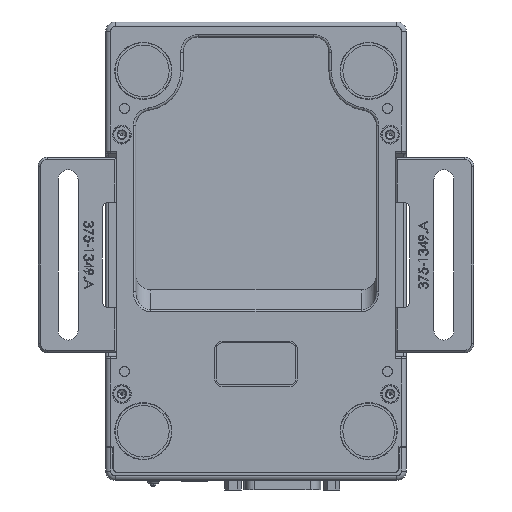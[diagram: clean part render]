
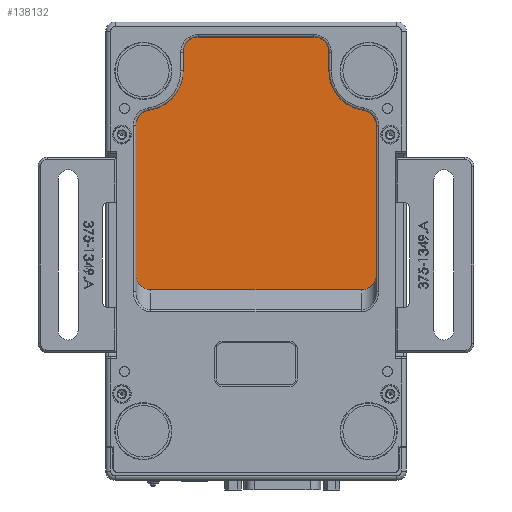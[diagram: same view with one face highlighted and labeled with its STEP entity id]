
A CAD part, front view. The second image highlights one B-rep face of the part: STEP entity #138132.
In plain terms, the highlighted planar face has unit normal (0, -1, 0).
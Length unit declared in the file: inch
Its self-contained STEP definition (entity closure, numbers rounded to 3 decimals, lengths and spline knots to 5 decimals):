
#653 = VERTEX_POINT ( 'NONE', #24613 ) ;
#1528 = DIRECTION ( 'NONE',  ( 0., 0., 1. ) ) ;
#2677 = CIRCLE ( 'NONE', #60358, 0.2 ) ;
#5729 = CIRCLE ( 'NONE', #52024, 0.2 ) ;
#9029 = VECTOR ( 'NONE', #118544, 39.37008 ) ;
#9958 = ORIENTED_EDGE ( 'NONE', *, *, #165660, .T. ) ;
#10889 = DIRECTION ( 'NONE',  ( 0., 0., 1. ) ) ;
#13133 = CIRCLE ( 'NONE', #154276, 0.2 ) ;
#13709 = FACE_OUTER_BOUND ( 'NONE', #97123, .T. ) ;
#14053 = VERTEX_POINT ( 'NONE', #90993 ) ;
#16276 = EDGE_CURVE ( 'NONE', #14053, #61495, #5729, .T. ) ;
#18129 = CARTESIAN_POINT ( 'NONE',  ( 1.6, -1.44, 0.62688 ) ) ;
#20950 = CIRCLE ( 'NONE', #27233, 0.2 ) ;
#21540 = VECTOR ( 'NONE', #72538, 39.37008 ) ;
#23420 = CARTESIAN_POINT ( 'NONE',  ( 0.77, -1.44, 1.8 ) ) ;
#23577 = LINE ( 'NONE', #109333, #166624 ) ;
#24613 = CARTESIAN_POINT ( 'NONE',  ( -1.4274, -1.44, 0.825 ) ) ;
#24765 = DIRECTION ( 'NONE',  ( 0., 1., 0. ) ) ;
#24994 = CIRCLE ( 'NONE', #84988, 0.53 ) ;
#26131 = AXIS2_PLACEMENT_3D ( 'NONE', #71861, #154798, #42800 ) ;
#27233 = AXIS2_PLACEMENT_3D ( 'NONE', #120951, #150518, #65741 ) ;
#30876 = ORIENTED_EDGE ( 'NONE', *, *, #45957, .T. ) ;
#31865 = ORIENTED_EDGE ( 'NONE', *, *, #80948, .T. ) ;
#32021 = CARTESIAN_POINT ( 'NONE',  ( 1.4274, -1.44, 0.825 ) ) ;
#38746 = AXIS2_PLACEMENT_3D ( 'NONE', #120395, #107041, #77974 ) ;
#39627 = DIRECTION ( 'NONE',  ( 0., 0., -1. ) ) ;
#39914 = DIRECTION ( 'NONE',  ( 0., 1., 0. ) ) ;
#42800 = DIRECTION ( 'NONE',  ( 0., 0., 1. ) ) ;
#42889 = CARTESIAN_POINT ( 'NONE',  ( 1.4, -1.44, 0.62688 ) ) ;
#43999 = CARTESIAN_POINT ( 'NONE',  ( 1.4, -1.44, -1.56544 ) ) ;
#44372 = ORIENTED_EDGE ( 'NONE', *, *, #163202, .T. ) ;
#44866 = CARTESIAN_POINT ( 'NONE',  ( -0.77, -1.44, 1.8 ) ) ;
#45957 = EDGE_CURVE ( 'NONE', #653, #56343, #13133, .T. ) ;
#47040 = EDGE_CURVE ( 'NONE', #59031, #68244, #2677, .T. ) ;
#48220 = EDGE_CURVE ( 'NONE', #142439, #155360, #132433, .T. ) ;
#52024 = AXIS2_PLACEMENT_3D ( 'NONE', #171306, #88272, #101566 ) ;
#52756 = EDGE_CURVE ( 'NONE', #56343, #14053, #113675, .T. ) ;
#56343 = VERTEX_POINT ( 'NONE', #108715 ) ;
#57211 = CARTESIAN_POINT ( 'NONE',  ( 0.97, -1.44, 1.6 ) ) ;
#58361 = DIRECTION ( 'NONE',  ( 0., -1., 0. ) ) ;
#59031 = VERTEX_POINT ( 'NONE', #43999 ) ;
#60358 = AXIS2_PLACEMENT_3D ( 'NONE', #84437, #58361, #1528 ) ;
#61495 = VERTEX_POINT ( 'NONE', #141686 ) ;
#64504 = AXIS2_PLACEMENT_3D ( 'NONE', #42889, #139731, #163350 ) ;
#65741 = DIRECTION ( 'NONE',  ( 0., 0., 1. ) ) ;
#67047 = EDGE_CURVE ( 'NONE', #155360, #136522, #164129, .T. ) ;
#68244 = VERTEX_POINT ( 'NONE', #101895 ) ;
#69104 = LINE ( 'NONE', #170076, #21540 ) ;
#71861 = CARTESIAN_POINT ( 'NONE',  ( -0.77, -1.44, 1.6 ) ) ;
#72538 = DIRECTION ( 'NONE',  ( 1., 0., 0. ) ) ;
#74265 = ORIENTED_EDGE ( 'NONE', *, *, #16276, .T. ) ;
#77974 = DIRECTION ( 'NONE',  ( 0., 0., 1. ) ) ;
#79527 = EDGE_CURVE ( 'NONE', #61495, #59031, #69104, .T. ) ;
#80902 = DIRECTION ( 'NONE',  ( 0., -1., 0. ) ) ;
#80948 = EDGE_CURVE ( 'NONE', #143598, #159181, #174466, .T. ) ;
#81126 = VECTOR ( 'NONE', #172601, 39.37008 ) ;
#83803 = DIRECTION ( 'NONE',  ( 0., 0., 1. ) ) ;
#84437 = CARTESIAN_POINT ( 'NONE',  ( 1.4, -1.44, -1.36544 ) ) ;
#84988 = AXIS2_PLACEMENT_3D ( 'NONE', #148884, #39914, #150077 ) ;
#88272 = DIRECTION ( 'NONE',  ( 0., -1., 0. ) ) ;
#90993 = CARTESIAN_POINT ( 'NONE',  ( -1.6, -1.44, -1.36544 ) ) ;
#92711 = ORIENTED_EDGE ( 'NONE', *, *, #173998, .T. ) ;
#95649 = LINE ( 'NONE', #171836, #9029 ) ;
#97123 = EDGE_LOOP ( 'NONE', ( #156810, #74265, #112771, #177899, #111341, #179262, #31865, #92711, #170470, #140759, #179254, #9958, #44372, #30876 ) ) ;
#100600 = EDGE_CURVE ( 'NONE', #146609, #142439, #20950, .T. ) ;
#101566 = DIRECTION ( 'NONE',  ( 0., 0., 1. ) ) ;
#101895 = CARTESIAN_POINT ( 'NONE',  ( 1.6, -1.44, -1.36544 ) ) ;
#102074 = CARTESIAN_POINT ( 'NONE',  ( 0.97, -1.44, 1.35 ) ) ;
#104029 = PLANE ( 'NONE',  #38746 ) ;
#107041 = DIRECTION ( 'NONE',  ( 0., 1., 0. ) ) ;
#108715 = CARTESIAN_POINT ( 'NONE',  ( -1.6, -1.44, 0.62688 ) ) ;
#109333 = CARTESIAN_POINT ( 'NONE',  ( -0.97, -1.44, 1.35 ) ) ;
#110337 = VERTEX_POINT ( 'NONE', #18129 ) ;
#111341 = ORIENTED_EDGE ( 'NONE', *, *, #169120, .T. ) ;
#112449 = CARTESIAN_POINT ( 'NONE',  ( -0.97, -1.44, 1.8 ) ) ;
#112771 = ORIENTED_EDGE ( 'NONE', *, *, #79527, .T. ) ;
#113675 = LINE ( 'NONE', #119864, #81126 ) ;
#118544 = DIRECTION ( 'NONE',  ( 0., 0., 1. ) ) ;
#119864 = CARTESIAN_POINT ( 'NONE',  ( -1.6, -1.44, -1.48544 ) ) ;
#120395 = CARTESIAN_POINT ( 'NONE',  ( 0., -1.44, 0. ) ) ;
#120877 = CARTESIAN_POINT ( 'NONE',  ( -1.4, -1.44, 0.62688 ) ) ;
#120951 = CARTESIAN_POINT ( 'NONE',  ( 0.77, -1.44, 1.6 ) ) ;
#131380 = CIRCLE ( 'NONE', #64504, 0.2 ) ;
#132433 = LINE ( 'NONE', #112449, #167065 ) ;
#134742 = DIRECTION ( 'NONE',  ( 0., 0., 1. ) ) ;
#136522 = VERTEX_POINT ( 'NONE', #150593 ) ;
#138132 = ADVANCED_FACE ( 'NONE', ( #13709 ), #104029, .F. ) ;
#138285 = CARTESIAN_POINT ( 'NONE',  ( 1.6, -1.44, 0.82 ) ) ;
#139731 = DIRECTION ( 'NONE',  ( 0., -1., 0. ) ) ;
#140269 = LINE ( 'NONE', #138285, #157676 ) ;
#140759 = ORIENTED_EDGE ( 'NONE', *, *, #48220, .T. ) ;
#141344 = DIRECTION ( 'NONE',  ( -1., 0., 0. ) ) ;
#141686 = CARTESIAN_POINT ( 'NONE',  ( -1.4, -1.44, -1.56544 ) ) ;
#142439 = VERTEX_POINT ( 'NONE', #23420 ) ;
#143598 = VERTEX_POINT ( 'NONE', #32021 ) ;
#146609 = VERTEX_POINT ( 'NONE', #57211 ) ;
#147263 = CARTESIAN_POINT ( 'NONE',  ( -0.97, -1.44, 1.35 ) ) ;
#148884 = CARTESIAN_POINT ( 'NONE',  ( -1.5, -1.44, 1.35 ) ) ;
#150077 = DIRECTION ( 'NONE',  ( 0., 0., 1. ) ) ;
#150518 = DIRECTION ( 'NONE',  ( 0., -1., 0. ) ) ;
#150593 = CARTESIAN_POINT ( 'NONE',  ( -0.97, -1.44, 1.6 ) ) ;
#154276 = AXIS2_PLACEMENT_3D ( 'NONE', #120877, #80902, #134742 ) ;
#154798 = DIRECTION ( 'NONE',  ( 0., -1., 0. ) ) ;
#155360 = VERTEX_POINT ( 'NONE', #44866 ) ;
#156810 = ORIENTED_EDGE ( 'NONE', *, *, #52756, .T. ) ;
#157676 = VECTOR ( 'NONE', #83803, 39.37008 ) ;
#159181 = VERTEX_POINT ( 'NONE', #102074 ) ;
#161602 = CARTESIAN_POINT ( 'NONE',  ( 1.5, -1.44, 1.35 ) ) ;
#163202 = EDGE_CURVE ( 'NONE', #164207, #653, #24994, .T. ) ;
#163350 = DIRECTION ( 'NONE',  ( 0., 0., 1. ) ) ;
#164129 = CIRCLE ( 'NONE', #26131, 0.2 ) ;
#164207 = VERTEX_POINT ( 'NONE', #147263 ) ;
#165660 = EDGE_CURVE ( 'NONE', #136522, #164207, #23577, .T. ) ;
#166624 = VECTOR ( 'NONE', #39627, 39.37008 ) ;
#167065 = VECTOR ( 'NONE', #141344, 39.37008 ) ;
#169120 = EDGE_CURVE ( 'NONE', #68244, #110337, #140269, .T. ) ;
#170076 = CARTESIAN_POINT ( 'NONE',  ( -1.6, -1.44, -1.56544 ) ) ;
#170470 = ORIENTED_EDGE ( 'NONE', *, *, #100600, .T. ) ;
#171306 = CARTESIAN_POINT ( 'NONE',  ( -1.4, -1.44, -1.36544 ) ) ;
#171836 = CARTESIAN_POINT ( 'NONE',  ( 0.97, -1.44, 1.8 ) ) ;
#172601 = DIRECTION ( 'NONE',  ( 0., 0., -1. ) ) ;
#173998 = EDGE_CURVE ( 'NONE', #159181, #146609, #95649, .T. ) ;
#174466 = CIRCLE ( 'NONE', #178209, 0.53 ) ;
#177899 = ORIENTED_EDGE ( 'NONE', *, *, #47040, .T. ) ;
#178209 = AXIS2_PLACEMENT_3D ( 'NONE', #161602, #24765, #10889 ) ;
#179254 = ORIENTED_EDGE ( 'NONE', *, *, #67047, .T. ) ;
#179262 = ORIENTED_EDGE ( 'NONE', *, *, #179817, .T. ) ;
#179817 = EDGE_CURVE ( 'NONE', #110337, #143598, #131380, .T. ) ;
